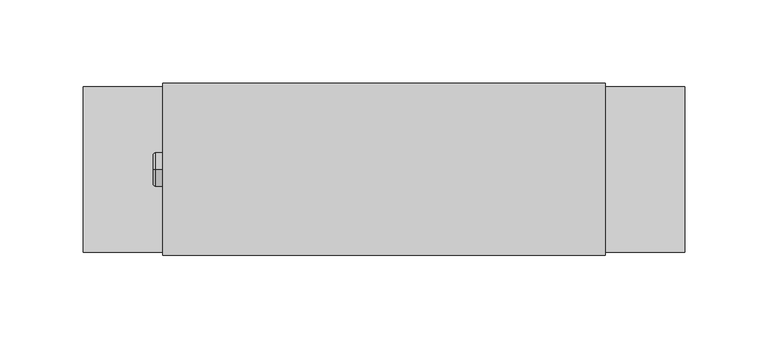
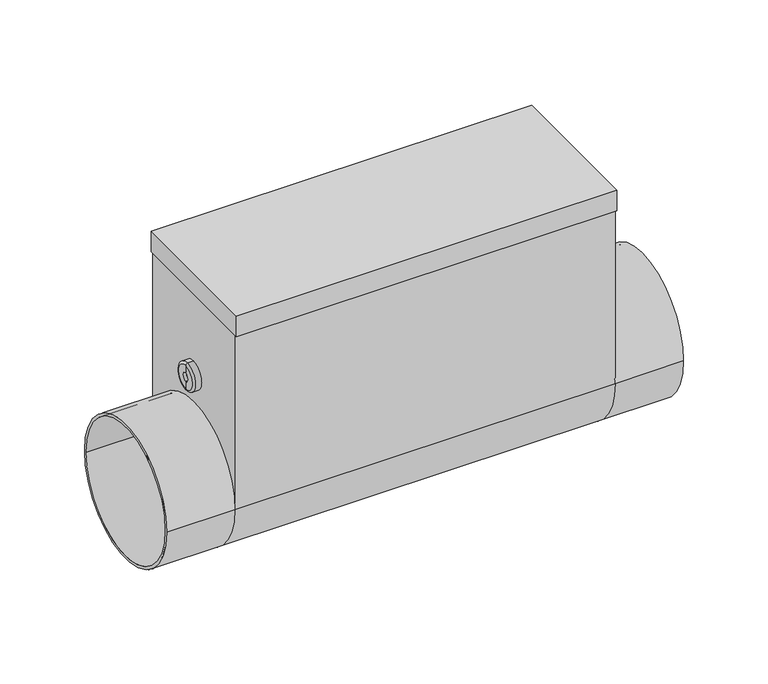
"""IFC4 building model written with IfcOpenShell, lengths in millimetres: proxy geometry, СВ_ВоздухонагревательЭлектрический_КанальныйКруглый_DN100-315_SKH-E : SKH-E-100/2."""

from ifc_helpers import new_model, si_unit, point, frame, origin, place, context, project, spatial, polyline, circle_curve, ellipse_curve, trimmed, outline, extrude, source, transform, mapped, element, save
from ifc_brep_helpers import plane_surface, cylinder_surface, revolved_surface, advanced_brep


def mechanical_equipment_89ec9e41(model_context):
    return source(origin(), model_context, "Body", "SolidModel", [
        extrude(outline(polyline([(132.5, -51.5), (-132.5, -51.5), (-132.5, 51.5), (132.5, 51.5), (132.5, -51.5)])), frame((0.0, 0.0, 128.5), z_axis=(0.0, 0.0, 1.0), x_axis=(1.0, 0.0, 0.0)), (0.0, 0.0, 1.0), 15.0),
        advanced_brep(
        [(-180.0, -49.5, 0.0), (-180.0, 49.5, 0.0), (-180.0, -47.5, 0.0), (-180.0, 47.5, 0.0), (-132.5, 47.5, 0.0), (-132.5, -47.5, 0.0), (-132.5, 49.5, 0.0), (-132.5, -49.5, 0.0), (132.5, -47.5, 0.0), (132.5, 47.5, 0.0), (132.5, -49.5, 128.5), (132.5, -49.5, 0.0), (132.5, 49.5, 0.0), (132.5, 49.5, 128.5), (-132.5, -49.5, 128.5), (-132.5, 49.5, 128.5), (180.0, -49.5, 0.0), (180.0, 49.5, 0.0), (180.0, -47.5, 0.0), (180.0, 47.5, 0.0)],
        [
            (0, 1, circle_curve(frame((-180.0, 0.0, 0.0), z_axis=(-1.0, 0.0, 0.0), x_axis=(0.0, 1.0, 0.0)), 49.5)),
            (1, 0, circle_curve(frame((-180.0, 0.0, 0.0), z_axis=(-1.0, 0.0, 0.0), x_axis=(0.0, 1.0, 0.0)), 49.5)),
            (2, 3, circle_curve(frame((-180.0, 0.0, 0.0), z_axis=(1.0, 0.0, 0.0), x_axis=(0.0, 1.0, 0.0)), 47.5)),
            (3, 2, circle_curve(frame((-180.0, 0.0, 0.0), z_axis=(1.0, 0.0, 0.0), x_axis=(0.0, 1.0, 0.0)), 47.5)),
            (3, 4),
            (4, 5, circle_curve(frame((-132.5, 0.0, 0.0), z_axis=(1.0, 0.0, 0.0), x_axis=(0.0, 1.0, 0.0)), 47.5)),
            (5, 2),
            (5, 4, circle_curve(frame((-132.5, 0.0, 0.0), z_axis=(1.0, 0.0, 0.0), x_axis=(0.0, 1.0, 0.0)), 47.5)),
            (1, 6),
            (6, 7, circle_curve(frame((-132.5, 0.0, 0.0), z_axis=(-1.0, 0.0, 0.0), x_axis=(0.0, 1.0, 0.0)), 49.5)),
            (7, 0),
            (7, 6, circle_curve(frame((-132.5, 0.0, 0.0), z_axis=(-1.0, 0.0, 0.0), x_axis=(0.0, 1.0, 0.0)), 49.5)),
            (8, 9, circle_curve(frame((132.5, 0.0, 0.0), z_axis=(1.0, 0.0, 0.0), x_axis=(0.0, 1.0, 0.0)), 47.5)),
            (9, 8, circle_curve(frame((132.5, 0.0, 0.0), z_axis=(1.0, 0.0, 0.0), x_axis=(0.0, 1.0, 0.0)), 47.5)),
            (10, 11),
            (11, 12, circle_curve(frame((132.5, 0.0, 0.0), z_axis=(-1.0, 0.0, 0.0), x_axis=(0.0, 1.0, 0.0)), 49.5)),
            (12, 13),
            (13, 10),
            (7, 14),
            (14, 15),
            (15, 6),
            (6, 12),
            (12, 11, circle_curve(frame((132.5, 0.0, 0.0), z_axis=(-1.0, 0.0, 0.0), x_axis=(0.0, 1.0, 0.0)), 49.5)),
            (11, 7),
            (16, 17, circle_curve(frame((180.0, 0.0, 0.0), z_axis=(1.0, 0.0, 0.0), x_axis=(0.0, 1.0, 0.0)), 49.5)),
            (17, 16, circle_curve(frame((180.0, 0.0, 0.0), z_axis=(1.0, 0.0, 0.0), x_axis=(0.0, 1.0, 0.0)), 49.5)),
            (18, 19, circle_curve(frame((180.0, 0.0, 0.0), z_axis=(-1.0, 0.0, 0.0), x_axis=(0.0, 1.0, 0.0)), 47.5)),
            (19, 18, circle_curve(frame((180.0, 0.0, 0.0), z_axis=(-1.0, 0.0, 0.0), x_axis=(0.0, 1.0, 0.0)), 47.5)),
            (18, 8),
            (9, 19),
            (16, 11),
            (12, 17),
            (10, 14),
            (15, 13),
        ],
        [
            plane_surface(frame((-180.0, 47.5, 0.0), z_axis=(-1.0, 0.0, 0.0), x_axis=(0.0, 0.0, 1.0))),
            revolved_surface(polyline([(-180.0, 47.5, 0.0), (-132.5, 47.5, 0.0)]), (-180.0, 0.0, 0.0), (-1.0, 0.0, 0.0)),
            cylinder_surface(frame((0.0, 0.0, 0.0), z_axis=(1.0, 0.0, 0.0), x_axis=(0.0, 1.0, 0.0)), 49.5),
            plane_surface(frame((132.5, 49.5, 0.0), z_axis=(1.0, 0.0, 0.0), x_axis=(0.0, -1.0, 0.0))),
            plane_surface(frame((-132.5, 49.5, 0.0), z_axis=(-1.0, 0.0, 0.0), x_axis=(0.0, 1.0, 0.0))),
            cylinder_surface(frame((-132.5, 0.0, 0.0), z_axis=(1.0, 0.0, 0.0), x_axis=(0.0, 1.0, 0.0)), 49.5),
            plane_surface(frame((180.0, 47.5, 0.0), z_axis=(1.0, 0.0, 0.0), x_axis=(0.0, 0.0, -1.0))),
            revolved_surface(polyline([(132.5, 47.5, 0.0), (180.0, 47.5, 0.0)]), (132.5, 0.0, 0.0), (-1.0, 0.0, 0.0)),
            plane_surface(frame((-132.5, -49.5, 128.5), z_axis=(0.0, -1.0, 0.0), x_axis=(-1.0, 0.0, 0.0))),
            plane_surface(frame((-132.5, 49.5, 128.5), z_axis=(0.0, 1.0, 0.0), x_axis=(1.0, 0.0, 0.0))),
            plane_surface(frame((132.5, -49.5, 128.5), z_axis=(0.0, 0.0, 1.0), x_axis=(0.0, 1.0, 0.0))),
        ],
        [
            (0, [[1, 2], [3, 4]]),
            (1, [[-4, 5, 6, 7]]),
            (1, [[-3, -7, 8, -5]]),
            (2, [[-2, 9, 10, 11]]),
            (2, [[-1, -11, 12, -9]]),
            (3, [[13, 14]]),
            (3, [[15, 16, 17, 18]]),
            (4, [[-8, -6]]),
            (4, [[19, 20, 21, -12]]),
            (5, [[-10, 22, 23, 24]]),
            (6, [[25, 26], [27, 28]]),
            (7, [[-27, 29, -14, 30]]),
            (7, [[-28, -30, -13, -29]]),
            (2, [[-25, 31, -23, 32]]),
            (2, [[-26, -32, -16, -31]]),
            (8, [[33, -19, -24, -15]]),
            (9, [[-17, -22, -21, 34]]),
            (10, [[-33, -18, -34, -20]]),
        ],
    ),
        advanced_brep(
        [(-136.7840134, 0.0, 59.5), (-136.7840134, 0.0, 79.5), (-132.5, 0.0, 79.5), (-132.5, 0.0, 59.5), (-138.2459771, 0.0, 60.9619637), (-138.2459771, 0.0, 78.0380363), (-138.2459771, 0.0, 66.3948071), (-138.2459771, 0.0, 72.6051929), (-135.9138357, 0.0, 66.3948071), (-135.9138357, 0.0, 72.6051929), (-135.9138357, 0.0, 69.5), (-132.5, 0.0, 69.5)],
        [
            (0, 1, circle_curve(frame((-136.7840134, 0.0, 69.5), z_axis=(1.0, 0.0, 0.0), x_axis=(0.0, 0.0, 1.0)), 10.0)),
            (1, 2),
            (2, 3, circle_curve(frame((-132.5, 0.0, 69.5), z_axis=(-1.0, 0.0, 0.0), x_axis=(0.0, 0.0, 1.0)), 10.0)),
            (3, 0),
            (1, 0, circle_curve(frame((-136.7840134, 0.0, 69.5), z_axis=(1.0, 0.0, 0.0), x_axis=(0.0, 0.0, 1.0)), 10.0)),
            (3, 2, circle_curve(frame((-132.5, 0.0, 69.5), z_axis=(-1.0, 0.0, 0.0), x_axis=(0.0, 0.0, 1.0)), 10.0)),
            (4, 5, circle_curve(frame((-138.2459771, 0.0, 69.5), z_axis=(1.0, 0.0, 0.0), x_axis=(0.0, 0.0, 1.0)), 8.5380363)),
            (5, 1, circle_curve(frame((-136.7840134, 0.0, 78.0380363), z_axis=(0.0, 1.0, 0.0), x_axis=(1.0, 0.0, 0.0)), 1.4619637)),
            (0, 4, circle_curve(frame((-136.7840134, 0.0, 60.9619637), z_axis=(0.0, 1.0, 0.0), x_axis=(1.0, 0.0, 0.0)), 1.4619637)),
            (5, 4, circle_curve(frame((-138.2459771, 0.0, 69.5), z_axis=(1.0, 0.0, 0.0), x_axis=(0.0, 0.0, 1.0)), 8.5380363)),
            (6, 7, circle_curve(frame((-138.2459771, 0.0, 69.5), z_axis=(1.0, 0.0, 0.0), x_axis=(0.0, 0.0, 1.0)), 3.1051929)),
            (7, 5),
            (4, 6),
            (7, 6, circle_curve(frame((-138.2459771, 0.0, 69.5), z_axis=(1.0, 0.0, 0.0), x_axis=(0.0, 0.0, 1.0)), 3.1051929)),
            (8, 9, circle_curve(frame((-135.9138357, 0.0, 69.5), z_axis=(1.0, 0.0, 0.0), x_axis=(0.0, 0.0, 1.0)), 3.1051929)),
            (9, 7),
            (6, 8),
            (9, 8, circle_curve(frame((-135.9138357, 0.0, 69.5), z_axis=(1.0, 0.0, 0.0), x_axis=(0.0, 0.0, 1.0)), 3.1051929)),
            (10, 9),
            (8, 10),
            (2, 11),
            (11, 3),
        ],
        [
            cylinder_surface(frame((-168.1635229, 0.0, 69.5), z_axis=(-1.0, 0.0, 0.0), x_axis=(0.0, 0.0, 1.0)), 10.0),
            revolved_surface(trimmed(ellipse_curve(frame((-136.7840134, 0.0, 78.0380363), z_axis=(0.0, -1.0, 0.0), x_axis=(1.0, 0.0, 0.0)), 1.4619637, 1.4619637), [point((-136.7840134, 0.0, 79.5))], [point((-138.2459771, 0.0, 78.0380363))], True, "CARTESIAN"), (-168.1635229, 0.0, 69.5), (-1.0, 0.0, 0.0)),
            plane_surface(frame((-138.2459771, 0.0, 69.5), z_axis=(-1.0, 0.0, 0.0), x_axis=(0.0, 0.0, 1.0))),
            revolved_surface(polyline([(-138.2459771, 0.0, 72.6051929), (-135.9138357, 0.0, 72.6051929)]), (-168.1635229, 0.0, 69.5), (-1.0, 0.0, 0.0)),
            plane_surface(frame((-135.9138357, 0.0, 69.5), z_axis=(-1.0, 0.0, 0.0), x_axis=(0.0, 0.0, 1.0))),
            plane_surface(frame((-132.5, 0.0, 69.5), z_axis=(1.0, 0.0, 0.0), x_axis=(0.0, 0.0, 1.0))),
        ],
        [
            (0, [[1, 2, 3, 4]]),
            (0, [[5, -4, 6, -2]]),
            (1, [[7, 8, -1, 9]]),
            (1, [[10, -9, -5, -8]]),
            (2, [[11, 12, -7, 13]]),
            (2, [[14, -13, -10, -12]]),
            (3, [[15, 16, -11, 17]]),
            (3, [[18, -17, -14, -16]]),
            (4, [[19, -15, 20]]),
            (4, [[-20, -18, -19]]),
            (5, [[-3, 21, 22]]),
            (5, [[-6, -22, -21]]),
        ],
    ),
    ])


if __name__ == "__main__":
    model = new_model("IFC4")
    model_context = context("Model", 3, world=origin())
    ifc_project = project(units=[si_unit("LENGTHUNIT", "METRE", prefix="MILLI")], contexts=[model_context])
    site = spatial("IfcSite", under=ifc_project)
    building = spatial("IfcBuilding", under=site)
    placement = place(None, origin())
    mechanical_equipment_shape = mechanical_equipment_89ec9e41(model_context)
    element("IfcBuildingElementProxy", 1, Name="СВ_ВоздухонагревательЭлектрический_КанальныйКруглый_DN100-315_SKH-E : SKH-E-100/2", ObjectType="СВ_ВоздухонагревательЭлектрический_КанальныйКруглый_DN100-315_SKH-E : SKH-E-100/2", at=placement, inside=building, context=model_context, shape_type="MappedRepresentation", body=[
        mapped(mechanical_equipment_shape, transform((0.0, 0.0, 0.0), x_axis=(1.0, 0.0, 0.0), y_axis=(0.0, 1.0, 0.0), z_axis=(0.0, 0.0, 1.0))),
    ])
    save(model, "model.ifc")
